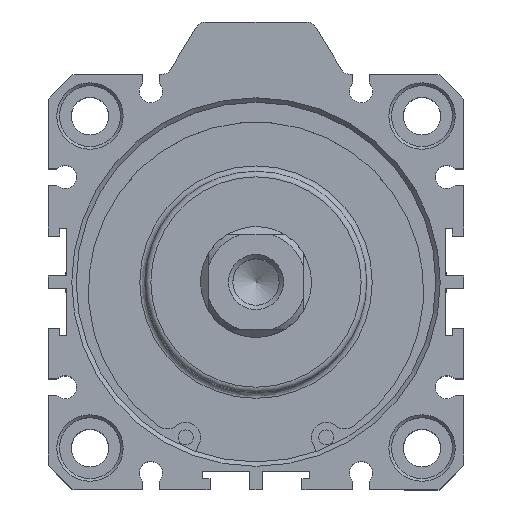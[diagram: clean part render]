
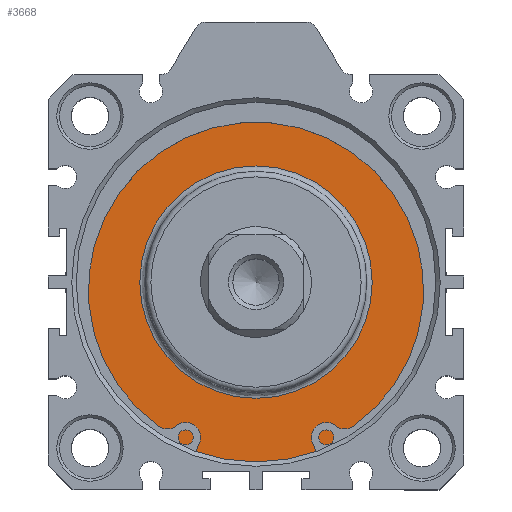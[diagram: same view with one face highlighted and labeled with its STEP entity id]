
A CAD part, top view. The second image highlights one B-rep face of the part: STEP entity #3668.
In plain terms, the highlighted planar face has unit normal (0, 0, 1).
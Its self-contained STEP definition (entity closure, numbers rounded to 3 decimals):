
#3617=CARTESIAN_POINT('',(0.359,19.684,37.3));
#3618=VERTEX_POINT('',#3617);
#3619=CARTESIAN_POINT('',(0.359,-1.316,37.3));
#3620=DIRECTION('',(0.0,0.0,1.0));
#3621=DIRECTION('',(0.0,-1.0,0.0));
#3622=AXIS2_PLACEMENT_3D('',#3619,#3620,#3621);
#3623=CIRCLE('',#3622,21.0);
#3624=EDGE_CURVE('',#3618,#3618,#3623,.T.);
#3649=CARTESIAN_POINT('',(0.359,24.934,37.3));
#3650=DIRECTION('',(0.0,0.0,1.0));
#3651=DIRECTION('',(1.0,0.0,0.0));
#3652=AXIS2_PLACEMENT_3D('',#3649,#3650,#3651);
#3653=PLANE('',#3652);
#3654=CARTESIAN_POINT('',(0.359,31.184,37.3));
#3655=VERTEX_POINT('',#3654);
#3656=CARTESIAN_POINT('',(0.359,-1.316,37.3));
#3657=DIRECTION('',(0.0,0.0,-1.0));
#3658=DIRECTION('',(0.0,1.0,0.0));
#3659=AXIS2_PLACEMENT_3D('',#3656,#3657,#3658);
#3660=CIRCLE('',#3659,32.5);
#3661=EDGE_CURVE('',#3655,#3655,#3660,.T.);
#3662=ORIENTED_EDGE('',*,*,#3661,.F.);
#3663=EDGE_LOOP('',(#3662));
#3664=FACE_OUTER_BOUND('',#3663,.T.);
#3665=ORIENTED_EDGE('',*,*,#3624,.F.);
#3666=EDGE_LOOP('',(#3665));
#3667=FACE_BOUND('',#3666,.T.);
#3668=ADVANCED_FACE('',(#3664,#3667),#3653,.T.);
